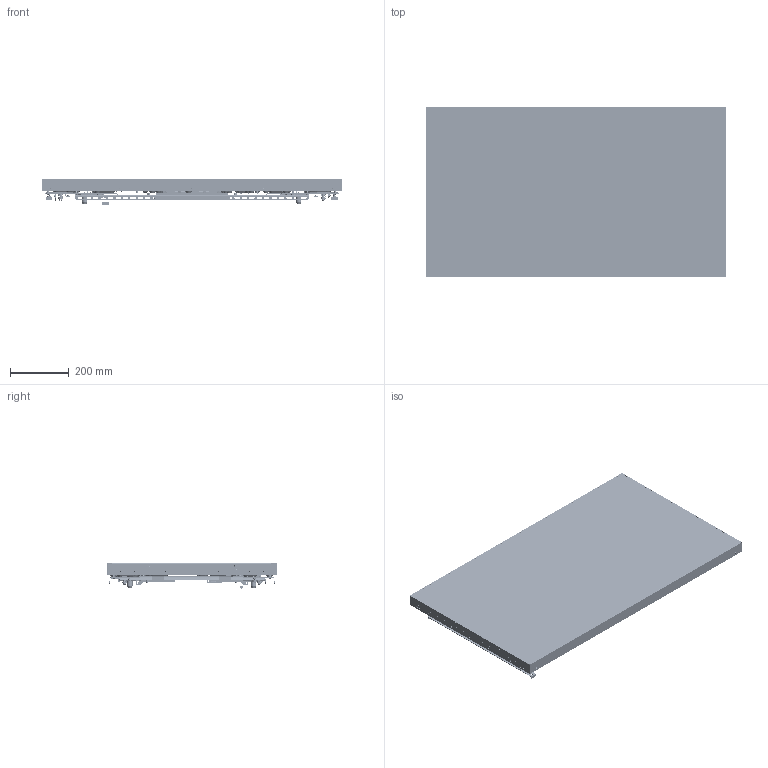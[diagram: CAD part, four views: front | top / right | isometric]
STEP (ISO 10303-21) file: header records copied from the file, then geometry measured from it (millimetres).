
FILE_DESCRIPTION (( 'STEP AP214' ), '1' );
FILE_NAME ('AD 46 Panel.STEP', '2012-09-11T17:30:27', ( 'landesk' ), ( 'Microsoft' ), 'SwSTEP 2.0', 'SolidWorks 2012', '' );
FILE_SCHEMA (( 'AUTOMOTIVE_DESIGN' ));
Length unit declared in the file: millimetre
Products named in the file (56): 610-0544; 209-0044_M3 NYLOC; B18.2.4.1M - Hex nut, Style 1,  M6 x 1 --D-N_B18.2.4.1M - Hex nut, Style 1,  M6 x 1 --D-N; B18.22M - Plain washer, 6 mm, regular_B18.22M - Plain washer, 6 mm, regular; 935-0373; B18.22M - Plain washer, 4 mm, regular; 210-0120; 209-0050_M4 NYLOC; B18.3.6M - M6 x 1.0 x 16 Hex Socket Flat Pt. SS --N_B18.3.6M - M6 x 1.0 x 16 Hex Socket Flat Pt. SS --N; 572-3447; 437-2204; RIVET - 125 C''SINK; RIVET - 125 BUTTON HEAD; 572-3446; 572-3444; PEM FH-M4-10 ZI--N; SWAGE HEX M6-2_Installed 16 ga steel; 105-0127_Installed; 105-0127-a4-20-501-10_225-002-190_PRT-225-002-190_3; 105-0127-a4-20-501-10_225-103-200ASSY_PRT-225-103-20; 105-0127-a4-20-501-10_225-102-010_PRT-225-102-010_9; 105-0127-a4-20-501-10_225-101-500_PRT-225-101-500_18; 572-3331; 572-3445; 750-2032; 209-0049_93825A120; 610-0543; 610-0501; 610-0455; 944-2829; 451-0117; 430450400; 801-0673_01; 801-0673; 572-3449; 572-3450; 110624_module_assy_46snb_sw; 430250400; B18.6.7M - M4 x 0.7 x 6 Type I Cross Recessed PHMS --6N_B18.6.7M - M4 x 0.7 x 6 Type I Cross Recessed PHMS --6N; B18.6.7M - M5 x 0.8 x 8 Type I Cross Recessed PHMS --8N_B18.6.7M - M5 x 0.8 x 8 Type I Cross Recessed PHMS --8N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
Assembly tree (175 placements, depth 5):
  801-0673_01
  AD 46 Panel
    750-2032
      572-3448  x2
        572-3448
        PEM S-M5-1 ZI--N
        PEM SO-3.5M3-6 ZI--N
        PEM TPS-3mm-8
        PEM S-M3-1 ZI--N
        PEM FH-M4-8 ZI--N
      437-2184  x2
        572-3324
          572-3324
          PEM TPS-3mm-8_PreviewCfg  x2
        501-0665
      B18.6.7M - M4 x 0.7 x 10 Type I Cross Recessed FHMS --10N  x8
      B18.6.7M - M3 x 0.5 x 8 Type I Cross Recessed PHMS --8N_PreviewCfg
      B18.6.7M - M5 x 0.8 x 8 Type I Cross Recessed PHMS --8N_B18.6.7M - M5 x 0.8 x 8 Type I Cross Recessed PHMS --8N  x4
      B18.6.7M - M4 x 0.7 x 6 Type I Cross Recessed PHMS --6N_B18.6.7M - M4 x 0.7 x 6 Type I Cross Recessed PHMS --6N  x16
      430250400
      110624_module_assy_46snb_sw
      572-3450
      572-3449
      944-2829
        801-0673
        430450400
        451-0117
      610-0455
      610-0501  x2
      610-0543
      209-0049_93825A120  x4
    935-0373
      437-2204
        572-3445  x2
        572-3331  x2
        105-0127_Installed  x4
          105-0127-a4-20-501-10_225-101-500_PRT-225-101-500_18
          105-0127-a4-20-501-10_225-102-010_PRT-225-102-010_9
          105-0127-a4-20-501-10_225-103-200ASSY_PRT-225-103-20
          105-0127-a4-20-501-10_225-002-190_PRT-225-002-190_3
        572-3444
          572-3444
          SWAGE HEX M6-2_Installed 16 ga steel  x4
          PEM FH-M4-10 ZI--N  x4
        572-3446  x2
        RIVET - 125 BUTTON HEAD  x44
        RIVET - 125 C''SINK  x8
      572-3447  x2
      B18.3.6M - M6 x 1.0 x 16 Hex Socket Flat Pt. SS --N_B18.3.6M - M6 x 1.0 x 16 Hex Socket Flat Pt. SS --N  x4
      209-0050_M4 NYLOC  x4
      210-0120  x4
      B18.22M - Plain washer, 4 mm, regular  x4
    B18.22M - Plain washer, 6 mm, regular_B18.22M - Plain washer, 6 mm, regular  x4
    B18.2.4.1M - Hex nut, Style 1,  M6 x 1 --D-N_B18.2.4.1M - Hex nut, Style 1,  M6 x 1 --D-N  x4
    209-0044_M3 NYLOC  x2
    610-0544
    B18.22M - Plain washer, 4 mm, regular  x2
Bounding box: 1026.35 x 580.93 x 85.64 mm (x, y, z)
Volume: 1355431.8 mm3; surface area: 5111750.3 mm2
Topology: 171 solids, 197 shells, 19892 faces, 52810 edges, 34218 vertices
Faces by surface type: plane 11691, cylinder 5403, cone 2039, bspline 419, torus 298, sphere 42
Entity records: 657479 total; most frequent: CARTESIAN_POINT 116980, ORIENTED_EDGE 84897, DIRECTION 82329, EDGE_CURVE 42599, VECTOR 29613, LINE 29613, VERTEX_POINT 27904, AXIS2_PLACEMENT_3D 26358
